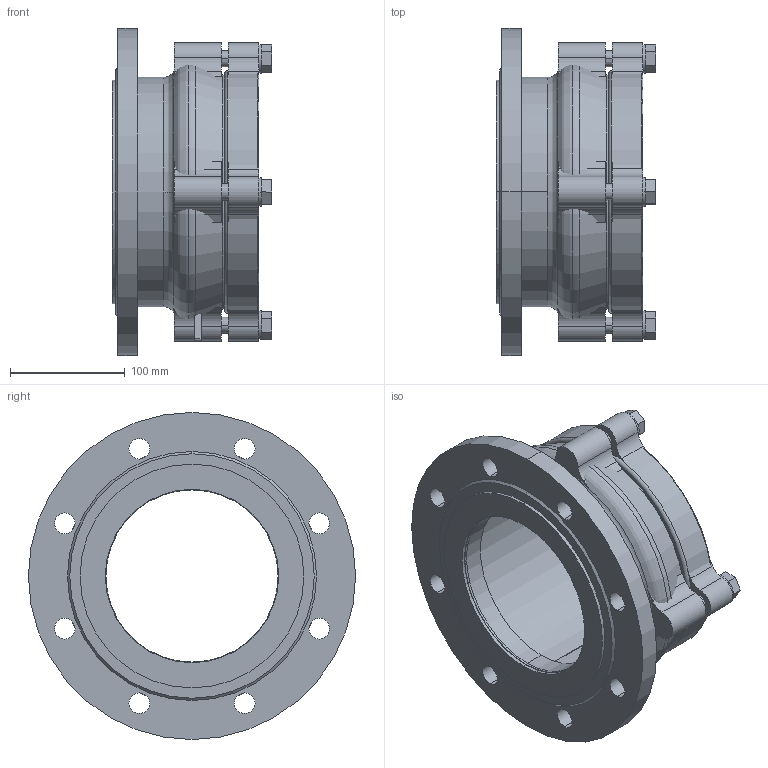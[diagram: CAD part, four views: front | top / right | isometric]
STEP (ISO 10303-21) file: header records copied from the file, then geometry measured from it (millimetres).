
FILE_DESCRIPTION(('STEP AP214'),'1');
FILE_NAME('U:/VDI-Daten/7200-(0400)/7200_PN16_DN150_180.STP','2012-06-15T09:56:25',(' '),(' '),'Spatial InterOp 3D',' ',' ');
FILE_SCHEMA(('automotive_design'));
Length unit declared in the file: millimetre
Products named in the file (27): 3D-Objekt
Bounding box: 139.3 x 285 x 285 mm (x, y, z)
Volume: 2186138.1 mm3; surface area: 571696.6 mm2
Topology: 27 solids, 27 shells, 211 faces, 464 edges, 308 vertices
Faces by surface type: plane 98, cylinder 95, torus 12, cone 6
Entity records: 8267 total; most frequent: DIRECTION 1174, CARTESIAN_POINT 1010, ORIENTED_EDGE 928, AXIS2_PLACEMENT_3D 472, EDGE_CURVE 464, VERTEX_POINT 308, EDGE_LOOP 240, STYLED_ITEM 238
